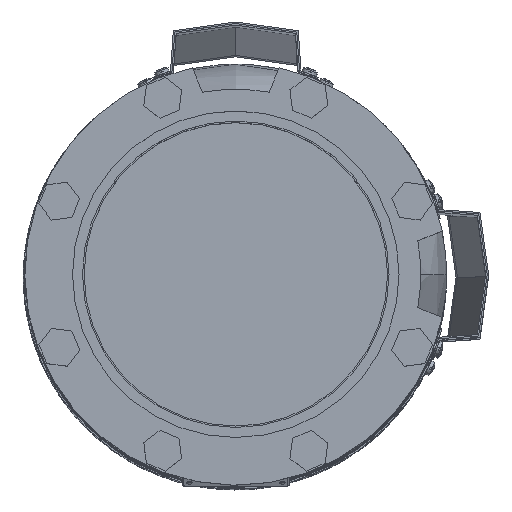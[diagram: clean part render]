
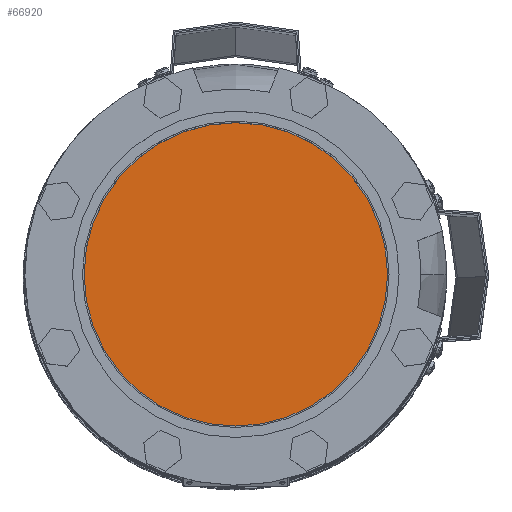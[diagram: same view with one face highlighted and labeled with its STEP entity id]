
A CAD part, top view. The second image highlights one B-rep face of the part: STEP entity #66920.
In plain terms, the highlighted planar face has unit normal (0, 0, 1) as drawn and (0, 1, 0) by its records, which use the part's own axes.
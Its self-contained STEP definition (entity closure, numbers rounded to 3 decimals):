
#612=CIRCLE('',#70526,102.5);
#613=CIRCLE('',#70527,102.5);
#16243=ORIENTED_EDGE('',*,*,#36507,.F.);
#16244=ORIENTED_EDGE('',*,*,#36508,.T.);
#36507=EDGE_CURVE('',#46639,#46640,#612,.T.);
#36508=EDGE_CURVE('',#46639,#46640,#613,.T.);
#46639=VERTEX_POINT('',#96523);
#46640=VERTEX_POINT('',#96524);
#54167=EDGE_LOOP('',(#16243,#16244));
#59030=FACE_BOUND('',#54167,.T.);
#63892=PLANE('',#70525);
#66920=ADVANCED_FACE('',(#59030),#63892,.T.);
#70525=AXIS2_PLACEMENT_3D('',#96521,#77083,#77084);
#70526=AXIS2_PLACEMENT_3D('',#96522,#77085,#77086);
#70527=AXIS2_PLACEMENT_3D('',#96525,#77087,#77088);
#77083=DIRECTION('',(0.,1.,0.));
#77084=DIRECTION('',(-1.,0.,0.));
#77085=DIRECTION('',(0.,-1.,0.));
#77086=DIRECTION('',(-1.,0.,0.));
#77087=DIRECTION('',(0.,1.,0.));
#77088=DIRECTION('',(-1.,0.,0.));
#96521=CARTESIAN_POINT('',(-109.56,216.5,0.));
#96522=CARTESIAN_POINT('',(0.,216.5,0.));
#96523=CARTESIAN_POINT('',(-102.5,216.5,0.));
#96524=CARTESIAN_POINT('',(102.5,216.5,0.));
#96525=CARTESIAN_POINT('',(0.,216.5,0.));
